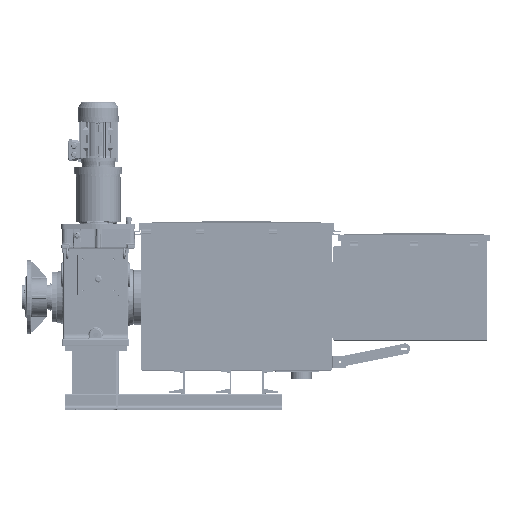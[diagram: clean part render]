
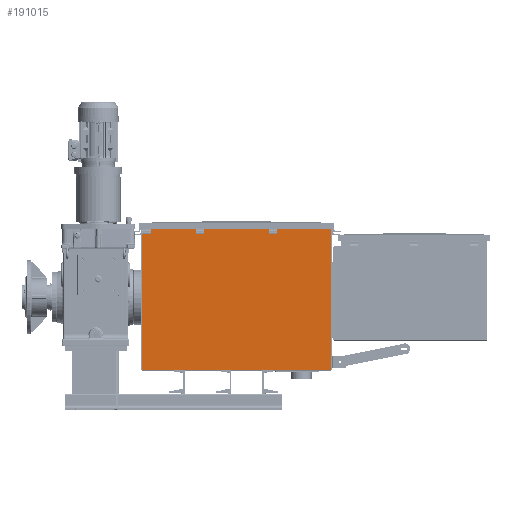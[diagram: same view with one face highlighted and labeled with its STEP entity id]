
A CAD part, top view. The second image highlights one B-rep face of the part: STEP entity #191015.
In plain terms, the highlighted planar face has unit normal (0, 0, 1).
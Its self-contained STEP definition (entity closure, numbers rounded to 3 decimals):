
#6911=PLANE('',#206343);
#24521=LINE('',#327747,#41003);
#24538=LINE('',#327792,#41020);
#24540=LINE('',#327796,#41022);
#24541=LINE('',#327798,#41023);
#24542=LINE('',#327807,#41024);
#24559=LINE('',#327852,#41041);
#24561=LINE('',#327856,#41043);
#24562=LINE('',#327858,#41044);
#24563=LINE('',#327867,#41045);
#24580=LINE('',#327912,#41062);
#24582=LINE('',#327916,#41064);
#24583=LINE('',#327918,#41065);
#24874=LINE('',#328777,#41356);
#24877=LINE('',#328783,#41359);
#24880=LINE('',#328790,#41362);
#24883=LINE('',#328794,#41365);
#24889=LINE('',#328806,#41371);
#24891=LINE('',#328810,#41373);
#24893=LINE('',#328813,#41375);
#24894=LINE('',#328816,#41376);
#24895=LINE('',#328818,#41377);
#24896=LINE('',#328819,#41378);
#24897=LINE('',#328821,#41379);
#24898=LINE('',#328822,#41380);
#41003=VECTOR('',#251874,40.);
#41020=VECTOR('',#251917,40.);
#41022=VECTOR('',#251921,40.);
#41023=VECTOR('',#251924,40.);
#41024=VECTOR('',#251933,40.);
#41041=VECTOR('',#251976,40.);
#41043=VECTOR('',#251980,40.);
#41044=VECTOR('',#251983,40.);
#41045=VECTOR('',#251992,40.);
#41062=VECTOR('',#252035,40.);
#41064=VECTOR('',#252039,40.);
#41065=VECTOR('',#252042,40.);
#41356=VECTOR('',#252907,865.);
#41359=VECTOR('',#252912,0.992);
#41362=VECTOR('',#252917,2.976);
#41365=VECTOR('',#252922,1.984);
#41371=VECTOR('',#252932,2.976);
#41373=VECTOR('',#252936,0.992);
#41375=VECTOR('',#252940,1.984);
#41376=VECTOR('',#252943,23.016);
#41377=VECTOR('',#252944,699.016);
#41378=VECTOR('',#252945,915.);
#41379=VECTOR('',#252946,699.016);
#41380=VECTOR('',#252947,23.016);
#44329=FACE_BOUND('',#71804,.T.);
#44330=FACE_BOUND('',#71805,.T.);
#44331=FACE_BOUND('',#71806,.T.);
#59622=FACE_OUTER_BOUND('',#71803,.T.);
#71803=EDGE_LOOP('',(#167717,#167718,#167719,#167720,#167721,#167722,#167723,
#167724,#167725,#167726,#167727,#167728));
#71804=EDGE_LOOP('',(#167729,#167730,#167731,#167732));
#71805=EDGE_LOOP('',(#167733,#167734,#167735,#167736));
#71806=EDGE_LOOP('',(#167737,#167738,#167739,#167740));
#91012=VERTEX_POINT('',#327745);
#91013=VERTEX_POINT('',#327746);
#91028=VERTEX_POINT('',#327790);
#91029=VERTEX_POINT('',#327794);
#91032=VERTEX_POINT('',#327805);
#91033=VERTEX_POINT('',#327806);
#91048=VERTEX_POINT('',#327850);
#91049=VERTEX_POINT('',#327854);
#91052=VERTEX_POINT('',#327865);
#91053=VERTEX_POINT('',#327866);
#91068=VERTEX_POINT('',#327910);
#91069=VERTEX_POINT('',#327914);
#91257=VERTEX_POINT('',#328477);
#91349=VERTEX_POINT('',#328769);
#91350=VERTEX_POINT('',#328773);
#91352=VERTEX_POINT('',#328781);
#91354=VERTEX_POINT('',#328787);
#91355=VERTEX_POINT('',#328789);
#91358=VERTEX_POINT('',#328803);
#91359=VERTEX_POINT('',#328805);
#91360=VERTEX_POINT('',#328809);
#91361=VERTEX_POINT('',#328815);
#91362=VERTEX_POINT('',#328817);
#91363=VERTEX_POINT('',#328820);
#116383=EDGE_CURVE('',#91012,#91013,#24521,.T.);
#116406=EDGE_CURVE('',#91013,#91028,#24538,.T.);
#116408=EDGE_CURVE('',#91029,#91012,#24540,.T.);
#116409=EDGE_CURVE('',#91028,#91029,#24541,.T.);
#116412=EDGE_CURVE('',#91032,#91033,#24542,.T.);
#116435=EDGE_CURVE('',#91033,#91048,#24559,.T.);
#116437=EDGE_CURVE('',#91049,#91032,#24561,.T.);
#116438=EDGE_CURVE('',#91048,#91049,#24562,.T.);
#116441=EDGE_CURVE('',#91052,#91053,#24563,.T.);
#116464=EDGE_CURVE('',#91053,#91068,#24580,.T.);
#116466=EDGE_CURVE('',#91069,#91052,#24582,.T.);
#116467=EDGE_CURVE('',#91068,#91069,#24583,.T.);
#116881=EDGE_CURVE('',#91349,#91350,#24874,.T.);
#116884=EDGE_CURVE('',#91350,#91352,#24877,.T.);
#116887=EDGE_CURVE('',#91355,#91354,#24880,.T.);
#116890=EDGE_CURVE('',#91352,#91355,#24883,.T.);
#116896=EDGE_CURVE('',#91359,#91358,#24889,.T.);
#116898=EDGE_CURVE('',#91360,#91349,#24891,.T.);
#116900=EDGE_CURVE('',#91358,#91360,#24893,.T.);
#116901=EDGE_CURVE('',#91361,#91354,#24894,.T.);
#116902=EDGE_CURVE('',#91362,#91361,#24895,.T.);
#116903=EDGE_CURVE('',#91362,#91257,#24896,.T.);
#116904=EDGE_CURVE('',#91363,#91257,#24897,.T.);
#116905=EDGE_CURVE('',#91359,#91363,#24898,.T.);
#167717=ORIENTED_EDGE('',*,*,#116887,.T.);
#167718=ORIENTED_EDGE('',*,*,#116901,.F.);
#167719=ORIENTED_EDGE('',*,*,#116902,.F.);
#167720=ORIENTED_EDGE('',*,*,#116903,.T.);
#167721=ORIENTED_EDGE('',*,*,#116904,.F.);
#167722=ORIENTED_EDGE('',*,*,#116905,.F.);
#167723=ORIENTED_EDGE('',*,*,#116896,.T.);
#167724=ORIENTED_EDGE('',*,*,#116900,.T.);
#167725=ORIENTED_EDGE('',*,*,#116898,.T.);
#167726=ORIENTED_EDGE('',*,*,#116881,.T.);
#167727=ORIENTED_EDGE('',*,*,#116884,.T.);
#167728=ORIENTED_EDGE('',*,*,#116890,.T.);
#167729=ORIENTED_EDGE('',*,*,#116383,.T.);
#167730=ORIENTED_EDGE('',*,*,#116406,.T.);
#167731=ORIENTED_EDGE('',*,*,#116409,.T.);
#167732=ORIENTED_EDGE('',*,*,#116408,.T.);
#167733=ORIENTED_EDGE('',*,*,#116412,.T.);
#167734=ORIENTED_EDGE('',*,*,#116435,.T.);
#167735=ORIENTED_EDGE('',*,*,#116438,.T.);
#167736=ORIENTED_EDGE('',*,*,#116437,.T.);
#167737=ORIENTED_EDGE('',*,*,#116441,.T.);
#167738=ORIENTED_EDGE('',*,*,#116464,.T.);
#167739=ORIENTED_EDGE('',*,*,#116467,.T.);
#167740=ORIENTED_EDGE('',*,*,#116466,.T.);
#191015=ADVANCED_FACE('',(#59622,#44329,#44330,#44331),#6911,.F.);
#206343=AXIS2_PLACEMENT_3D('',#328814,#252941,#252942);
#251874=DIRECTION('',(0.,-1.,0.));
#251917=DIRECTION('',(-1.,0.,0.));
#251921=DIRECTION('',(1.,0.,0.));
#251924=DIRECTION('',(0.,1.,0.));
#251933=DIRECTION('',(0.,-1.,0.));
#251976=DIRECTION('',(-1.,0.,0.));
#251980=DIRECTION('',(1.,0.,0.));
#251983=DIRECTION('',(0.,1.,0.));
#251992=DIRECTION('',(0.,-1.,0.));
#252035=DIRECTION('',(-1.,0.,0.));
#252039=DIRECTION('',(1.,0.,0.));
#252042=DIRECTION('',(0.,1.,0.));
#252907=DIRECTION('',(-1.,0.,0.));
#252912=DIRECTION('',(0.,-1.,0.));
#252917=DIRECTION('',(0.,1.,0.));
#252922=DIRECTION('',(-1.,0.,0.));
#252932=DIRECTION('',(0.,-1.,0.));
#252936=DIRECTION('',(0.,1.,0.));
#252940=DIRECTION('',(-1.,0.,0.));
#252941=DIRECTION('center_axis',(0.,0.,
-1.));
#252942=DIRECTION('ref_axis',(-1.,0.,0.));
#252943=DIRECTION('',(1.,0.,0.));
#252944=DIRECTION('',(0.,1.,0.));
#252945=DIRECTION('',(1.,0.,0.));
#252946=DIRECTION('',(0.,-1.,0.));
#252947=DIRECTION('',(1.,0.,0.));
#327745=CARTESIAN_POINT('',(305.802,282.411,203.519));
#327746=CARTESIAN_POINT('',(305.802,242.411,203.519));
#327747=CARTESIAN_POINT('',(305.802,95.33,203.519));
#327790=CARTESIAN_POINT('',(265.802,242.411,203.519));
#327792=CARTESIAN_POINT('',(503.302,242.411,203.519));
#327794=CARTESIAN_POINT('',(265.802,282.411,203.519));
#327796=CARTESIAN_POINT('',(503.302,282.411,203.519));
#327798=CARTESIAN_POINT('',(265.802,95.33,203.519));
#327805=CARTESIAN_POINT('',(915.802,282.411,203.519));
#327806=CARTESIAN_POINT('',(915.802,242.411,203.519));
#327807=CARTESIAN_POINT('',(915.802,95.33,203.519));
#327850=CARTESIAN_POINT('',(875.802,242.411,203.519));
#327852=CARTESIAN_POINT('',(808.302,242.411,203.519));
#327854=CARTESIAN_POINT('',(875.802,282.411,203.519));
#327856=CARTESIAN_POINT('',(808.302,282.411,203.519));
#327858=CARTESIAN_POINT('',(875.802,95.33,203.519));
#327865=CARTESIAN_POINT('',(565.802,282.411,203.519));
#327866=CARTESIAN_POINT('',(565.802,242.411,203.519));
#327867=CARTESIAN_POINT('',(565.802,95.33,203.519));
#327910=CARTESIAN_POINT('',(525.802,242.411,203.519));
#327912=CARTESIAN_POINT('',(633.302,242.411,203.519));
#327914=CARTESIAN_POINT('',(525.802,282.411,203.519));
#327916=CARTESIAN_POINT('',(633.302,282.411,203.519));
#327918=CARTESIAN_POINT('',(525.802,95.33,203.519));
#328477=CARTESIAN_POINT('',(1178.302,-410.889,203.519));
#328769=CARTESIAN_POINT('',(1153.302,286.143,203.519));
#328773=CARTESIAN_POINT('',(288.302,286.143,203.519));
#328777=CARTESIAN_POINT('',(504.552,286.143,203.519));
#328781=CARTESIAN_POINT('',(288.302,285.151,203.519));
#328783=CARTESIAN_POINT('',(288.302,110.763,203.519));
#328787=CARTESIAN_POINT('',(286.318,288.127,203.519));
#328789=CARTESIAN_POINT('',(286.318,285.151,203.519));
#328790=CARTESIAN_POINT('',(286.318,112.251,203.519));
#328794=CARTESIAN_POINT('',(503.56,285.151,203.519));
#328803=CARTESIAN_POINT('',(1155.286,285.151,203.519));
#328805=CARTESIAN_POINT('',(1155.286,288.127,203.519));
#328806=CARTESIAN_POINT('',(1155.286,110.763,203.519));
#328809=CARTESIAN_POINT('',(1153.302,285.151,203.519));
#328810=CARTESIAN_POINT('',(1153.302,112.251,203.519));
#328813=CARTESIAN_POINT('',(937.052,285.151,203.519));
#328814=CARTESIAN_POINT('Origin',(720.802,-63.625,203.519));
#328815=CARTESIAN_POINT('',(263.302,288.127,203.519));
#328816=CARTESIAN_POINT('',(263.302,288.127,203.519));
#328817=CARTESIAN_POINT('',(263.302,-410.889,203.519));
#328818=CARTESIAN_POINT('',(263.302,-410.889,203.519));
#328819=CARTESIAN_POINT('',(720.802,-410.889,203.519));
#328820=CARTESIAN_POINT('',(1178.302,288.127,203.519));
#328821=CARTESIAN_POINT('',(1178.302,-419.864,203.519));
#328822=CARTESIAN_POINT('',(263.302,288.127,203.519));
